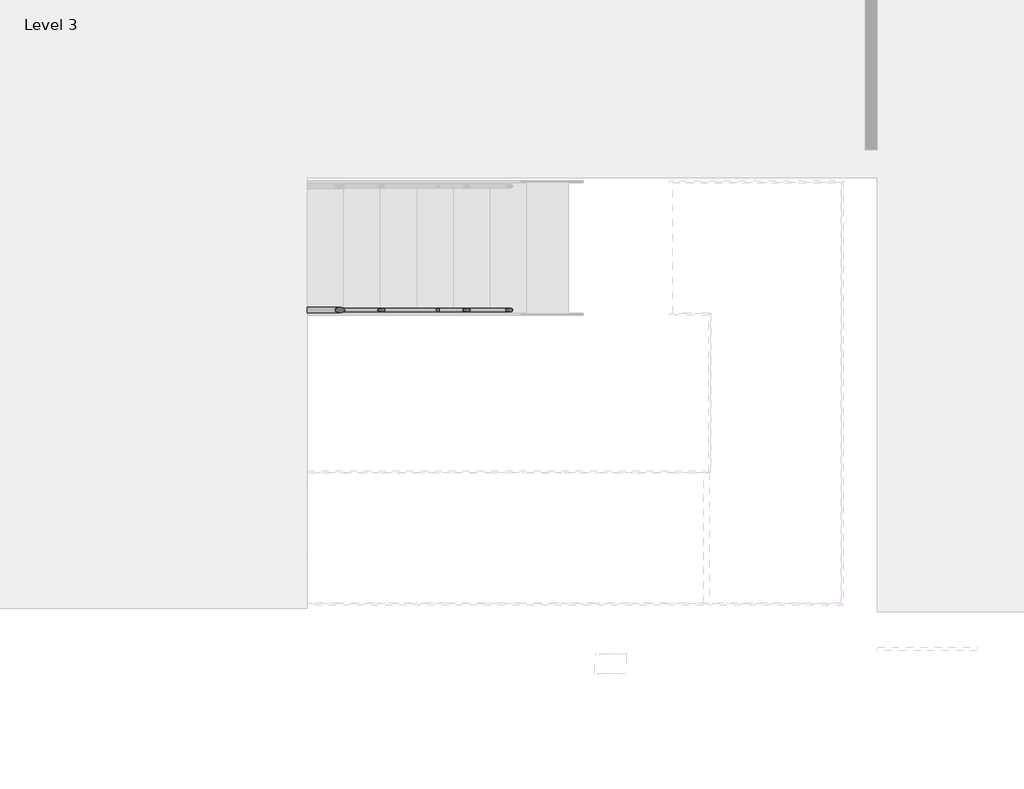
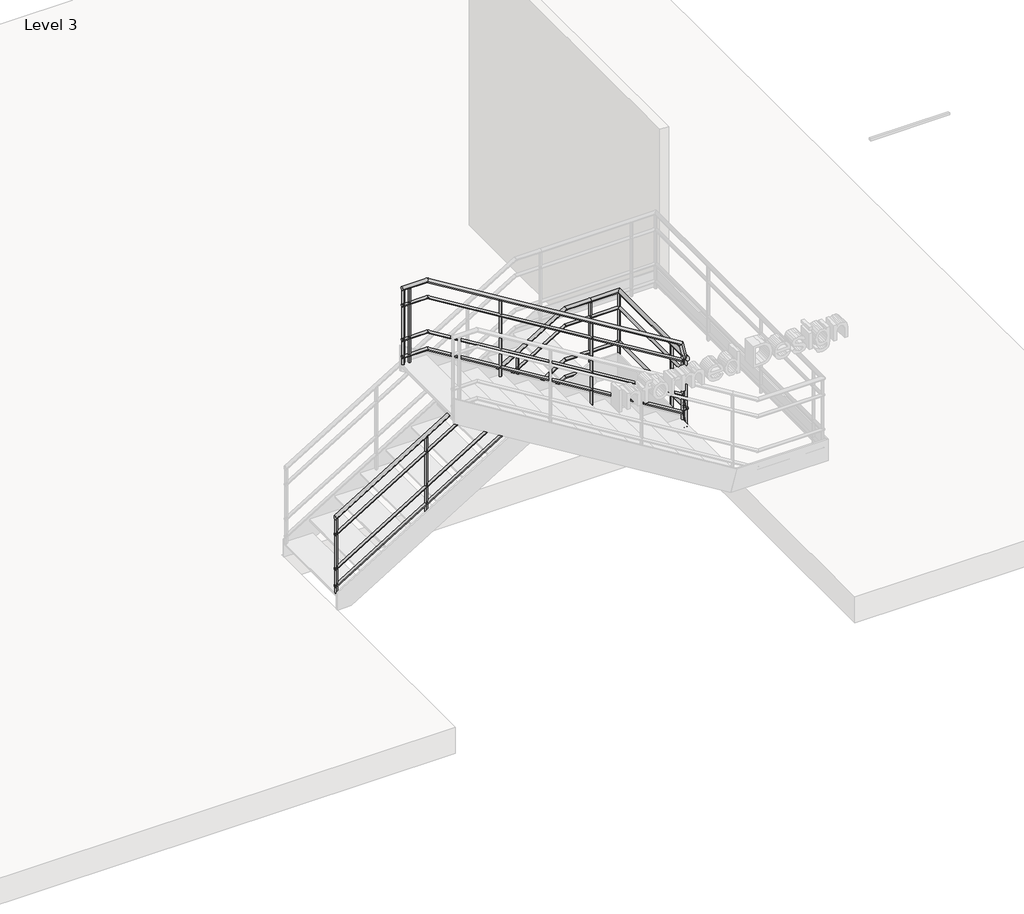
# One storey, part 5 of 7: 1 railing.
"""IFC4 building model written with IfcOpenShell, lengths in millimetres."""

from ifc_helpers import new_model, si_unit, point, frame, frame_2d, origin, place, context, project, spatial, circle_curve, ellipse_curve, trimmed, segment, composite_curve, outline, extrude, element, save
from ifc_brep_helpers import plane_surface, cylinder_surface, advanced_brep

model = new_model("IFC4")

# Units and contexts
model_context = context("Model", 3, world=origin())
ifc_project = project(units=[si_unit("LENGTHUNIT", "METRE", prefix="MILLI")], contexts=[model_context])

# Site, building, storey
site = spatial("IfcSite", under=ifc_project)
building = spatial("IfcBuilding", under=site)
storey = spatial("IfcBuildingStorey", under=building, Name="Level 3", Elevation=11000.0)

# Railing
placement = place(None, origin())
element("IfcRailing", 1, ObjectType="900mm_Pipe 2", at=placement, inside=storey, context=model_context, shape_type="SolidModel", body=[
    advanced_brep(
    [(35285.7942367, -992.7974508, 12047.9778246), (35285.7942367, -952.7974508, 12047.9778246), (37811.4304565, -992.7974508, 13594.2857143), (37811.4304565, -952.7974508, 13594.2857143), (38085.7942367, -992.7974508, 13594.2857143), (38085.7942367, -952.7974508, 13594.2857143), (38382.3511446, -992.7974508, 13594.2857143), (38422.3511446, -952.7974508, 13594.2857143), (38382.3511446, -2260.7943509, 13594.2857143), (38422.3511446, -2269.1367203, 13594.2857143)],
    [
        (0, 1, ellipse_curve(frame((35285.7942367, -972.7974508, 12047.9778246), z_axis=(-1.0, 0.0, 0.0), x_axis=(0.0, 0.0, -1.0)), 23.4507468, 20.0)),
        (1, 0, ellipse_curve(frame((35285.7942367, -972.7974508, 12047.9778246), z_axis=(-1.0, 0.0, 0.0), x_axis=(0.0, 0.0, -1.0)), 23.4507468, 20.0)),
        (0, 2),
        (2, 3, ellipse_curve(frame((37811.4304565, -972.7974508, 13594.2857143), z_axis=(-0.9625100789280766, 0.0, -0.27124591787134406), x_axis=(0.27124591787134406, 0.0, -0.9625100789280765)), 20.7790032, 20.0)),
        (3, 1),
        (3, 2, ellipse_curve(frame((37811.4304565, -972.7974508, 13594.2857143), z_axis=(-0.9625100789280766, 0.0, -0.27124591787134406), x_axis=(0.27124591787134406, 0.0, -0.9625100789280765)), 20.7790032, 20.0)),
        (2, 4),
        (4, 5, circle_curve(frame((38085.7942367, -972.7974508, 13594.2857143), z_axis=(-1.0, 0.0, 0.0), x_axis=(0.0, 1.0, 0.0)), 20.0)),
        (5, 3),
        (5, 4, circle_curve(frame((38085.7942367, -972.7974508, 13594.2857143), z_axis=(-1.0, 0.0, 0.0), x_axis=(0.0, 1.0, 0.0)), 20.0)),
        (4, 6),
        (6, 7, ellipse_curve(frame((38402.3511446, -972.7974508, 13594.2857143), z_axis=(-0.7071067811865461, 0.7071067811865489, 0.0), x_axis=(-0.7071067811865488, -0.7071067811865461, 0.0)), 28.2842712, 20.0)),
        (7, 5),
        (7, 6, ellipse_curve(frame((38402.3511446, -972.7974508, 13594.2857143), z_axis=(-0.7071067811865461, 0.7071067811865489, 0.0), x_axis=(-0.7071067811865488, -0.7071067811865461, 0.0)), 28.2842712, 20.0)),
        (8, 9, ellipse_curve(frame((38402.3511446, -2264.9655356, 13594.2857143), z_axis=(-0.14747365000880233, -0.7071067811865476, 0.6915573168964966), x_axis=(-0.14747365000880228, 0.7071067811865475, 0.6915573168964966)), 28.2842712, 20.0)),
        (9, 8, ellipse_curve(frame((38402.3511446, -2264.9655356, 13594.2857143), z_axis=(-0.14747365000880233, -0.7071067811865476, 0.6915573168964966), x_axis=(-0.14747365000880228, 0.7071067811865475, 0.6915573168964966)), 28.2842712, 20.0)),
        (6, 8),
        (9, 7),
    ],
    [
        plane_surface(frame((35285.7942367, -972.7974508, 12071.4285714), z_axis=(-1.0, 0.0, 0.0), x_axis=(0.0, 1.0, 0.0))),
        cylinder_surface(frame((35296.2373139, -972.7974508, 12054.3715453), z_axis=(-0.8528513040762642, 0.0, -0.5221538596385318), x_axis=(0.0, 1.0, 0.0)), 20.0),
        cylinder_surface(frame((37805.7942367, -972.7974508, 13594.2857143), z_axis=(-1.0, 0.0, 0.0), x_axis=(0.0, 1.0, 0.0)), 20.0),
        cylinder_surface(frame((38085.7942367, -972.7974508, 13594.2857143), z_axis=(-1.0, 0.0, 0.0), x_axis=(0.0, 1.0, 0.0)), 20.0),
        plane_surface(frame((38402.3511446, -2245.4053409, 13614.2857143), z_axis=(-0.14747365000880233, -0.7071067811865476, 0.6915573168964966), x_axis=(0.9890659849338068, -0.10543241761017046, 0.10311393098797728))),
        cylinder_surface(frame((38402.3511446, -972.7974508, 13594.2857143), z_axis=(0.0, 1.0, 0.0), x_axis=(1.0, 0.0, 0.0)), 20.0),
    ],
    [
        (0, [[1, 2]]),
        (1, [[-1, 3, 4, 5]]),
        (1, [[-2, -5, 6, -3]]),
        (2, [[-4, 7, 8, 9]]),
        (2, [[-6, -9, 10, -7]]),
        (3, [[-8, 11, 12, 13]]),
        (3, [[-10, -13, 14, -11]]),
        (4, [[15, 16]]),
        (5, [[-12, 17, -16, 18]]),
        (5, [[-14, -18, -15, -17]]),
    ],
),
    advanced_brep(
    [(38378.6197651, -2225.4053409, 13629.6747243), (38386.9621346, -2265.4053409, 13590.5543348), (38348.0254874, -2225.4053409, 13773.142365), (38348.0254874, -2265.4053409, 13773.142365), (35560.1580169, -2225.4053409, 15480.0), (35560.1580169, -2265.4053409, 15480.0), (35285.7942367, -2225.4053409, 15480.0), (35285.7942367, -2265.4053409, 15480.0)],
    [
        (0, 1, ellipse_curve(frame((38382.7909498, -2245.4053409, 13610.1145296), z_axis=(0.14747365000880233, 0.7071067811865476, -0.6915573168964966), x_axis=(0.1474736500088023, -0.7071067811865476, -0.6915573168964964)), 28.2842712, 20.0)),
        (1, 0, ellipse_curve(frame((38382.7909498, -2245.4053409, 13610.1145296), z_axis=(0.14747365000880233, 0.7071067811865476, -0.6915573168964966), x_axis=(0.1474736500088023, -0.7071067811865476, -0.6915573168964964)), 28.2842712, 20.0)),
        (0, 2),
        (2, 3, ellipse_curve(frame((38348.0254874, -2245.4053409, 13773.142365), z_axis=(0.5775804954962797, 0.0, -0.81633373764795), x_axis=(-0.8163337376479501, 0.0, -0.5775804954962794)), 21.7665257, 20.0)),
        (3, 1),
        (3, 2, ellipse_curve(frame((38348.0254874, -2245.4053409, 13773.142365), z_axis=(0.5775804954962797, 0.0, -0.81633373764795), x_axis=(-0.8163337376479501, 0.0, -0.5775804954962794)), 21.7665257, 20.0)),
        (2, 4),
        (4, 5, ellipse_curve(frame((35560.1580169, -2245.4053409, 15480.0), z_axis=(0.9625100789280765, 0.0, -0.27124591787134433), x_axis=(-0.2712459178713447, 0.0, -0.9625100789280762)), 20.7790032, 20.0)),
        (5, 3),
        (5, 4, ellipse_curve(frame((35560.1580169, -2245.4053409, 15480.0), z_axis=(0.9625100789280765, 0.0, -0.27124591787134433), x_axis=(-0.2712459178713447, 0.0, -0.9625100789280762)), 20.7790032, 20.0)),
        (6, 7, circle_curve(frame((35285.7942367, -2245.4053409, 15480.0), z_axis=(-1.0, 0.0, 0.0), x_axis=(0.0, -1.0, 0.0)), 20.0)),
        (7, 6, circle_curve(frame((35285.7942367, -2245.4053409, 15480.0), z_axis=(-1.0, 0.0, 0.0), x_axis=(0.0, -1.0, 0.0)), 20.0)),
        (4, 6),
        (7, 5),
    ],
    [
        plane_surface(frame((38402.3511446, -2245.4053409, 13614.2857143), z_axis=(0.14747365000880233, 0.7071067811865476, -0.6915573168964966), x_axis=(0.9890659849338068, -0.10543241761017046, 0.10311393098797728))),
        cylinder_surface(frame((38382.7909498, -2245.4053409, 13610.1145296), z_axis=(0.2085592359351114, 0.0, -0.9780097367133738), x_axis=(0.0, -1.0, 0.0)), 20.0),
        cylinder_surface(frame((38355.3511595, -2245.4053409, 13768.6572596), z_axis=(0.8528513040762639, 0.0, -0.5221538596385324), x_axis=(0.0, -1.0, 0.0)), 20.0),
        plane_surface(frame((35285.7942367, -2245.4053409, 15500.0), z_axis=(-1.0, 0.0, 0.0), x_axis=(0.0, -1.0, 0.0))),
        cylinder_surface(frame((35565.7942367, -2245.4053409, 15480.0), z_axis=(1.0, 0.0, 0.0), x_axis=(0.0, -1.0, 0.0)), 20.0),
    ],
    [
        (0, [[1, 2]]),
        (1, [[-1, 3, 4, 5]]),
        (1, [[-2, -5, 6, -3]]),
        (2, [[-4, 7, 8, 9]]),
        (2, [[-6, -9, 10, -7]]),
        (3, [[11, 12]]),
        (4, [[-8, 13, -12, 14]]),
        (4, [[-10, -14, -11, -13]]),
    ],
),
    advanced_brep(
    [(35285.7942367, -957.7974508, 11853.8405113), (35285.7942367, -987.7974508, 11853.8405113), (37810.0214015, -957.7974508, 13399.2857143), (37810.0214015, -987.7974508, 13399.2857143), (38085.7942367, -957.7974508, 13399.2857143), (38085.7942367, -987.7974508, 13399.2857143)],
    [
        (0, 1, ellipse_curve(frame((35285.7942367, -972.7974508, 11853.8405113), z_axis=(-1.0, 0.0, 0.0), x_axis=(0.0, 0.0, -1.0)), 17.5880601, 15.0)),
        (1, 0, ellipse_curve(frame((35285.7942367, -972.7974508, 11853.8405113), z_axis=(-1.0, 0.0, 0.0), x_axis=(0.0, 0.0, -1.0)), 17.5880601, 15.0)),
        (0, 2),
        (2, 3, ellipse_curve(frame((37810.0214015, -972.7974508, 13399.2857143), z_axis=(-0.9625100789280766, 0.0, -0.27124591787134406), x_axis=(0.27124591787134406, 0.0, -0.9625100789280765)), 15.5842524, 15.0)),
        (3, 1),
        (3, 2, ellipse_curve(frame((37810.0214015, -972.7974508, 13399.2857143), z_axis=(-0.9625100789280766, 0.0, -0.27124591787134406), x_axis=(0.27124591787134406, 0.0, -0.9625100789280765)), 15.5842524, 15.0)),
        (4, 5, circle_curve(frame((38085.7942367, -972.7974508, 13399.2857143), z_axis=(1.0, 0.0, 0.0), x_axis=(0.0, -1.0, 0.0)), 15.0)),
        (5, 4, circle_curve(frame((38085.7942367, -972.7974508, 13399.2857143), z_axis=(1.0, 0.0, 0.0), x_axis=(0.0, -1.0, 0.0)), 15.0)),
        (2, 4),
        (5, 3),
    ],
    [
        plane_surface(frame((35285.7942367, -972.7974508, 11871.4285714), z_axis=(-1.0, 0.0, 0.0), x_axis=(0.0, 1.0, 0.0))),
        cylinder_surface(frame((35293.6265446, -972.7974508, 11858.6358019), z_axis=(-0.8528513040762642, 0.0, -0.5221538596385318), x_axis=(0.0, -1.0, 0.0)), 15.0),
        plane_surface(frame((38085.7942367, -972.7974508, 13414.2857143), z_axis=(1.0, 0.0, 0.0), x_axis=(0.0, 1.0, 0.0))),
        cylinder_surface(frame((37805.7942367, -972.7974508, 13399.2857143), z_axis=(-1.0, 0.0, 0.0), x_axis=(0.0, -1.0, 0.0)), 15.0),
    ],
    [
        (0, [[1, 2]]),
        (1, [[-1, 3, 4, 5]]),
        (1, [[-2, -5, 6, -3]]),
        (2, [[7, 8]]),
        (3, [[-4, 9, -8, 10]]),
        (3, [[-6, -10, -7, -9]]),
    ],
),
    advanced_brep(
    [(38085.7942367, -957.7974508, 13399.2857143), (38085.7942367, -987.7974508, 13399.2857143), (38387.3511446, -957.7974508, 13399.2857143), (38387.3511446, -987.7974508, 13399.2857143)],
    [
        (0, 1, circle_curve(frame((38085.7942367, -972.7974508, 13399.2857143), z_axis=(-1.0, 0.0, 0.0), x_axis=(0.0, -1.0, 0.0)), 15.0)),
        (1, 0, circle_curve(frame((38085.7942367, -972.7974508, 13399.2857143), z_axis=(-1.0, 0.0, 0.0), x_axis=(0.0, -1.0, 0.0)), 15.0)),
        (2, 3, circle_curve(frame((38387.3511446, -972.7974508, 13399.2857143), z_axis=(1.0, 0.0, 0.0), x_axis=(0.0, -1.0, 0.0)), 15.0)),
        (3, 2, circle_curve(frame((38387.3511446, -972.7974508, 13399.2857143), z_axis=(1.0, 0.0, 0.0), x_axis=(0.0, -1.0, 0.0)), 15.0)),
        (0, 2),
        (3, 1),
    ],
    [
        plane_surface(frame((38085.7942367, -972.7974508, 13414.2857143), z_axis=(-1.0, 0.0, 0.0), x_axis=(0.0, 1.0, 0.0))),
        plane_surface(frame((38387.3511446, -972.7974508, 13414.2857143), z_axis=(1.0, 0.0, 0.0), x_axis=(0.0, 1.0, 0.0))),
        cylinder_surface(frame((38085.7942367, -972.7974508, 13399.2857143), z_axis=(-1.0, 0.0, 0.0), x_axis=(0.0, -1.0, 0.0)), 15.0),
    ],
    [
        (0, [[1, 2]]),
        (1, [[3, 4]]),
        (2, [[-1, 5, -4, 6]]),
        (2, [[-2, -6, -3, -5]]),
    ],
),
    advanced_brep(
    [(38417.3511446, -957.7974508, 13399.2857143), (38387.3511446, -957.7974508, 13399.2857143), (38417.3511446, -2230.4053409, 13399.2857143), (38387.3511446, -2230.4053409, 13399.2857143)],
    [
        (0, 1, circle_curve(frame((38402.3511446, -957.7974508, 13399.2857143), z_axis=(0.0, 1.0, 0.0), x_axis=(-1.0, 0.0, 0.0)), 15.0)),
        (1, 0, circle_curve(frame((38402.3511446, -957.7974508, 13399.2857143), z_axis=(0.0, 1.0, 0.0), x_axis=(-1.0, 0.0, 0.0)), 15.0)),
        (2, 3, circle_curve(frame((38402.3511446, -2230.4053409, 13399.2857143), z_axis=(0.0, -1.0, 0.0), x_axis=(-1.0, 0.0, 0.0)), 15.0)),
        (3, 2, circle_curve(frame((38402.3511446, -2230.4053409, 13399.2857143), z_axis=(0.0, -1.0, 0.0), x_axis=(-1.0, 0.0, 0.0)), 15.0)),
        (0, 2),
        (3, 1),
    ],
    [
        plane_surface(frame((38402.3511446, -957.7974508, 13414.2857143), z_axis=(0.0, 1.0, 0.0), x_axis=(0.0, 0.0, -1.0))),
        plane_surface(frame((38402.3511446, -2230.4053409, 13414.2857143), z_axis=(0.0, -1.0, 0.0), x_axis=(0.0, 0.0, -1.0))),
        cylinder_surface(frame((38402.3511446, -957.7974508, 13399.2857143), z_axis=(0.0, 1.0, 0.0), x_axis=(-1.0, 0.0, 0.0)), 15.0),
    ],
    [
        (0, [[1, 2]]),
        (1, [[3, 4]]),
        (2, [[-1, 5, -4, 6]]),
        (2, [[-2, -6, -3, -5]]),
    ],
),
    advanced_brep(
    [(38417.3511446, -2260.4053409, 13399.2857143), (38417.3511446, -2230.4053409, 13399.2857143), (38390.2126034, -2260.4053409, 13399.2857143), (38390.2126034, -2230.4053409, 13399.2857143), (38365.7942367, -2260.4053409, 13513.7922731), (38365.7942367, -2230.4053409, 13513.7922731)],
    [
        (0, 1, circle_curve(frame((38417.3511446, -2245.4053409, 13399.2857143), z_axis=(1.0, 0.0, 0.0), x_axis=(0.0, 1.0, 0.0)), 15.0)),
        (1, 0, circle_curve(frame((38417.3511446, -2245.4053409, 13399.2857143), z_axis=(1.0, 0.0, 0.0), x_axis=(0.0, 1.0, 0.0)), 15.0)),
        (0, 2),
        (2, 3, ellipse_curve(frame((38390.2126034, -2245.4053409, 13399.2857143), z_axis=(0.7773542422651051, 0.0, -0.6290630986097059), x_axis=(0.6290630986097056, 0.0, 0.7773542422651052)), 19.296222, 15.0)),
        (3, 1),
        (3, 2, ellipse_curve(frame((38390.2126034, -2245.4053409, 13399.2857143), z_axis=(0.7773542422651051, 0.0, -0.6290630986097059), x_axis=(0.6290630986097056, 0.0, 0.7773542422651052)), 19.296222, 15.0)),
        (4, 5, ellipse_curve(frame((38365.7942367, -2245.4053409, 13513.7922731), z_axis=(-1.0, 0.0, 0.0), x_axis=(0.0, 0.0, -1.0)), 71.9220126, 15.0)),
        (5, 4, ellipse_curve(frame((38365.7942367, -2245.4053409, 13513.7922731), z_axis=(-1.0, 0.0, 0.0), x_axis=(0.0, 0.0, -1.0)), 71.9220126, 15.0)),
        (2, 4),
        (5, 3),
    ],
    [
        plane_surface(frame((38417.3511446, -2245.4053409, 13414.2857143), z_axis=(1.0, 0.0, 0.0), x_axis=(0.0, -1.0, 0.0))),
        cylinder_surface(frame((38417.3511446, -2245.4053409, 13399.2857143), z_axis=(1.0, 0.0, 0.0), x_axis=(0.0, 1.0, 0.0)), 15.0),
        plane_surface(frame((38365.7942367, -2245.4053409, 13585.7142857), z_axis=(-1.0, 0.0, 0.0), x_axis=(0.0, -1.0, 0.0))),
        cylinder_surface(frame((38387.6809985, -2245.4053409, 13411.1573257), z_axis=(0.20855923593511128, 0.0, -0.9780097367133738), x_axis=(0.0, 1.0, 0.0)), 15.0),
    ],
    [
        (0, [[1, 2]]),
        (1, [[-1, 3, 4, 5]]),
        (1, [[-2, -5, 6, -3]]),
        (2, [[7, 8]]),
        (3, [[-4, 9, -8, 10]]),
        (3, [[-6, -10, -7, -9]]),
    ],
),
    advanced_brep(
    [(38365.7942367, -2260.4053409, 13568.1262256), (38365.7942367, -2230.4053409, 13568.1262256), (35561.5670718, -2260.4053409, 15285.0), (35561.5670718, -2230.4053409, 15285.0), (35285.7942367, -2260.4053409, 15285.0), (35285.7942367, -2230.4053409, 15285.0)],
    [
        (0, 1, ellipse_curve(frame((38365.7942367, -2245.4053409, 13568.1262256), z_axis=(1.0, 0.0, 0.0), x_axis=(0.0, 0.0, -1.0)), 17.5880601, 15.0)),
        (1, 0, ellipse_curve(frame((38365.7942367, -2245.4053409, 13568.1262256), z_axis=(1.0, 0.0, 0.0), x_axis=(0.0, 0.0, -1.0)), 17.5880601, 15.0)),
        (0, 2),
        (2, 3, ellipse_curve(frame((35561.5670718, -2245.4053409, 15285.0), z_axis=(0.9625100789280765, 0.0, -0.2712459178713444), x_axis=(-0.2712459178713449, 0.0, -0.9625100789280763)), 15.5842524, 15.0)),
        (3, 1),
        (3, 2, ellipse_curve(frame((35561.5670718, -2245.4053409, 15285.0), z_axis=(0.9625100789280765, 0.0, -0.2712459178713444), x_axis=(-0.2712459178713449, 0.0, -0.9625100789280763)), 15.5842524, 15.0)),
        (4, 5, circle_curve(frame((35285.7942367, -2245.4053409, 15285.0), z_axis=(-1.0, 0.0, 0.0), x_axis=(0.0, 1.0, 0.0)), 15.0)),
        (5, 4, circle_curve(frame((35285.7942367, -2245.4053409, 15285.0), z_axis=(-1.0, 0.0, 0.0), x_axis=(0.0, 1.0, 0.0)), 15.0)),
        (2, 4),
        (5, 3),
    ],
    [
        plane_surface(frame((38365.7942367, -2245.4053409, 13585.7142857), z_axis=(1.0, 0.0, 0.0), x_axis=(0.0, -1.0, 0.0))),
        cylinder_surface(frame((38357.9619288, -2245.4053409, 13572.9215162), z_axis=(0.8528513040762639, 0.0, -0.5221538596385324), x_axis=(0.0, 1.0, 0.0)), 15.0),
        plane_surface(frame((35285.7942367, -2245.4053409, 15300.0), z_axis=(-1.0, 0.0, 0.0), x_axis=(0.0, -1.0, 0.0))),
        cylinder_surface(frame((35565.7942367, -2245.4053409, 15285.0), z_axis=(1.0, 0.0, 0.0), x_axis=(0.0, 1.0, 0.0)), 15.0),
    ],
    [
        (0, [[1, 2]]),
        (1, [[-1, 3, 4, 5]]),
        (1, [[-2, -5, 6, -3]]),
        (2, [[7, 8]]),
        (3, [[-4, 9, -8, 10]]),
        (3, [[-6, -10, -7, -9]]),
    ],
),
    advanced_brep(
    [(35285.7942367, -957.7974508, 11453.8405113), (35285.7942367, -987.7974508, 11453.8405113), (37810.0214015, -957.7974508, 12999.2857143), (37810.0214015, -987.7974508, 12999.2857143), (38085.7942367, -957.7974508, 12999.2857143), (38085.7942367, -987.7974508, 12999.2857143)],
    [
        (0, 1, ellipse_curve(frame((35285.7942367, -972.7974508, 11453.8405113), z_axis=(-1.0, 0.0, 0.0), x_axis=(0.0, 0.0, -1.0)), 17.5880601, 15.0)),
        (1, 0, ellipse_curve(frame((35285.7942367, -972.7974508, 11453.8405113), z_axis=(-1.0, 0.0, 0.0), x_axis=(0.0, 0.0, -1.0)), 17.5880601, 15.0)),
        (0, 2),
        (2, 3, ellipse_curve(frame((37810.0214015, -972.7974508, 12999.2857143), z_axis=(-0.9625100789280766, 0.0, -0.27124591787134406), x_axis=(0.27124591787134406, 0.0, -0.9625100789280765)), 15.5842524, 15.0)),
        (3, 1),
        (3, 2, ellipse_curve(frame((37810.0214015, -972.7974508, 12999.2857143), z_axis=(-0.9625100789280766, 0.0, -0.27124591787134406), x_axis=(0.27124591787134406, 0.0, -0.9625100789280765)), 15.5842524, 15.0)),
        (4, 5, circle_curve(frame((38085.7942367, -972.7974508, 12999.2857143), z_axis=(1.0, 0.0, 0.0), x_axis=(0.0, -1.0, 0.0)), 15.0)),
        (5, 4, circle_curve(frame((38085.7942367, -972.7974508, 12999.2857143), z_axis=(1.0, 0.0, 0.0), x_axis=(0.0, -1.0, 0.0)), 15.0)),
        (2, 4),
        (5, 3),
    ],
    [
        plane_surface(frame((35285.7942367, -972.7974508, 11471.4285714), z_axis=(-1.0, 0.0, 0.0), x_axis=(0.0, 1.0, 0.0))),
        cylinder_surface(frame((35293.6265446, -972.7974508, 11458.6358019), z_axis=(-0.8528513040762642, 0.0, -0.5221538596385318), x_axis=(0.0, -1.0, 0.0)), 15.0),
        plane_surface(frame((38085.7942367, -972.7974508, 13014.2857143), z_axis=(1.0, 0.0, 0.0), x_axis=(0.0, 1.0, 0.0))),
        cylinder_surface(frame((37805.7942367, -972.7974508, 12999.2857143), z_axis=(-1.0, 0.0, 0.0), x_axis=(0.0, -1.0, 0.0)), 15.0),
    ],
    [
        (0, [[1, 2]]),
        (1, [[-1, 3, 4, 5]]),
        (1, [[-2, -5, 6, -3]]),
        (2, [[7, 8]]),
        (3, [[-4, 9, -8, 10]]),
        (3, [[-6, -10, -7, -9]]),
    ],
),
    advanced_brep(
    [(38085.7942367, -957.7974508, 12999.2857143), (38085.7942367, -987.7974508, 12999.2857143), (38387.3511446, -957.7974508, 12999.2857143), (38387.3511446, -987.7974508, 12999.2857143)],
    [
        (0, 1, circle_curve(frame((38085.7942367, -972.7974508, 12999.2857143), z_axis=(-1.0, 0.0, 0.0), x_axis=(0.0, -1.0, 0.0)), 15.0)),
        (1, 0, circle_curve(frame((38085.7942367, -972.7974508, 12999.2857143), z_axis=(-1.0, 0.0, 0.0), x_axis=(0.0, -1.0, 0.0)), 15.0)),
        (2, 3, circle_curve(frame((38387.3511446, -972.7974508, 12999.2857143), z_axis=(1.0, 0.0, 0.0), x_axis=(0.0, -1.0, 0.0)), 15.0)),
        (3, 2, circle_curve(frame((38387.3511446, -972.7974508, 12999.2857143), z_axis=(1.0, 0.0, 0.0), x_axis=(0.0, -1.0, 0.0)), 15.0)),
        (0, 2),
        (3, 1),
    ],
    [
        plane_surface(frame((38085.7942367, -972.7974508, 13014.2857143), z_axis=(-1.0, 0.0, 0.0), x_axis=(0.0, 1.0, 0.0))),
        plane_surface(frame((38387.3511446, -972.7974508, 13014.2857143), z_axis=(1.0, 0.0, 0.0), x_axis=(0.0, 1.0, 0.0))),
        cylinder_surface(frame((38085.7942367, -972.7974508, 12999.2857143), z_axis=(-1.0, 0.0, 0.0), x_axis=(0.0, -1.0, 0.0)), 15.0),
    ],
    [
        (0, [[1, 2]]),
        (1, [[3, 4]]),
        (2, [[-1, 5, -4, 6]]),
        (2, [[-2, -6, -3, -5]]),
    ],
),
    advanced_brep(
    [(38417.3511446, -957.7974508, 12999.2857143), (38387.3511446, -957.7974508, 12999.2857143), (38417.3511446, -2230.4053409, 12999.2857143), (38387.3511446, -2230.4053409, 12999.2857143)],
    [
        (0, 1, circle_curve(frame((38402.3511446, -957.7974508, 12999.2857143), z_axis=(0.0, 1.0, 0.0), x_axis=(-1.0, 0.0, 0.0)), 15.0)),
        (1, 0, circle_curve(frame((38402.3511446, -957.7974508, 12999.2857143), z_axis=(0.0, 1.0, 0.0), x_axis=(-1.0, 0.0, 0.0)), 15.0)),
        (2, 3, circle_curve(frame((38402.3511446, -2230.4053409, 12999.2857143), z_axis=(0.0, -1.0, 0.0), x_axis=(-1.0, 0.0, 0.0)), 15.0)),
        (3, 2, circle_curve(frame((38402.3511446, -2230.4053409, 12999.2857143), z_axis=(0.0, -1.0, 0.0), x_axis=(-1.0, 0.0, 0.0)), 15.0)),
        (0, 2),
        (3, 1),
    ],
    [
        plane_surface(frame((38402.3511446, -957.7974508, 13014.2857143), z_axis=(0.0, 1.0, 0.0), x_axis=(0.0, 0.0, -1.0))),
        plane_surface(frame((38402.3511446, -2230.4053409, 13014.2857143), z_axis=(0.0, -1.0, 0.0), x_axis=(0.0, 0.0, -1.0))),
        cylinder_surface(frame((38402.3511446, -957.7974508, 12999.2857143), z_axis=(0.0, 1.0, 0.0), x_axis=(-1.0, 0.0, 0.0)), 15.0),
    ],
    [
        (0, [[1, 2]]),
        (1, [[3, 4]]),
        (2, [[-1, 5, -4, 6]]),
        (2, [[-2, -6, -3, -5]]),
    ],
),
    advanced_brep(
    [(38417.3511446, -2260.4053409, 12999.2857143), (38417.3511446, -2230.4053409, 12999.2857143), (38390.2126034, -2260.4053409, 12999.2857143), (38390.2126034, -2230.4053409, 12999.2857143), (38365.7942367, -2260.4053409, 13113.7922731), (38365.7942367, -2230.4053409, 13113.7922731)],
    [
        (0, 1, circle_curve(frame((38417.3511446, -2245.4053409, 12999.2857143), z_axis=(1.0, 0.0, 0.0), x_axis=(0.0, 1.0, 0.0)), 15.0)),
        (1, 0, circle_curve(frame((38417.3511446, -2245.4053409, 12999.2857143), z_axis=(1.0, 0.0, 0.0), x_axis=(0.0, 1.0, 0.0)), 15.0)),
        (0, 2),
        (2, 3, ellipse_curve(frame((38390.2126034, -2245.4053409, 12999.2857143), z_axis=(0.7773542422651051, 0.0, -0.6290630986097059), x_axis=(0.6290630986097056, 0.0, 0.7773542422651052)), 19.296222, 15.0)),
        (3, 1),
        (3, 2, ellipse_curve(frame((38390.2126034, -2245.4053409, 12999.2857143), z_axis=(0.7773542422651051, 0.0, -0.6290630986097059), x_axis=(0.6290630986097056, 0.0, 0.7773542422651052)), 19.296222, 15.0)),
        (4, 5, ellipse_curve(frame((38365.7942367, -2245.4053409, 13113.7922731), z_axis=(-1.0, 0.0, 0.0), x_axis=(0.0, 0.0, -1.0)), 71.9220126, 15.0)),
        (5, 4, ellipse_curve(frame((38365.7942367, -2245.4053409, 13113.7922731), z_axis=(-1.0, 0.0, 0.0), x_axis=(0.0, 0.0, -1.0)), 71.9220126, 15.0)),
        (2, 4),
        (5, 3),
    ],
    [
        plane_surface(frame((38417.3511446, -2245.4053409, 13014.2857143), z_axis=(1.0, 0.0, 0.0), x_axis=(0.0, -1.0, 0.0))),
        cylinder_surface(frame((38417.3511446, -2245.4053409, 12999.2857143), z_axis=(1.0, 0.0, 0.0), x_axis=(0.0, 1.0, 0.0)), 15.0),
        plane_surface(frame((38365.7942367, -2245.4053409, 13185.7142857), z_axis=(-1.0, 0.0, 0.0), x_axis=(0.0, -1.0, 0.0))),
        cylinder_surface(frame((38387.6809985, -2245.4053409, 13011.1573257), z_axis=(0.20855923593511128, 0.0, -0.9780097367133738), x_axis=(0.0, 1.0, 0.0)), 15.0),
    ],
    [
        (0, [[1, 2]]),
        (1, [[-1, 3, 4, 5]]),
        (1, [[-2, -5, 6, -3]]),
        (2, [[7, 8]]),
        (3, [[-4, 9, -8, 10]]),
        (3, [[-6, -10, -7, -9]]),
    ],
),
    advanced_brep(
    [(38365.7942367, -2260.4053409, 13168.1262256), (38365.7942367, -2230.4053409, 13168.1262256), (35561.5670718, -2260.4053409, 14885.0), (35561.5670718, -2230.4053409, 14885.0), (35285.7942367, -2260.4053409, 14885.0), (35285.7942367, -2230.4053409, 14885.0)],
    [
        (0, 1, ellipse_curve(frame((38365.7942367, -2245.4053409, 13168.1262256), z_axis=(1.0, 0.0, 0.0), x_axis=(0.0, 0.0, -1.0)), 17.5880601, 15.0)),
        (1, 0, ellipse_curve(frame((38365.7942367, -2245.4053409, 13168.1262256), z_axis=(1.0, 0.0, 0.0), x_axis=(0.0, 0.0, -1.0)), 17.5880601, 15.0)),
        (0, 2),
        (2, 3, ellipse_curve(frame((35561.5670718, -2245.4053409, 14885.0), z_axis=(0.9625100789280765, 0.0, -0.2712459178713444), x_axis=(-0.2712459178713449, 0.0, -0.9625100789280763)), 15.5842524, 15.0)),
        (3, 1),
        (3, 2, ellipse_curve(frame((35561.5670718, -2245.4053409, 14885.0), z_axis=(0.9625100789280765, 0.0, -0.2712459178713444), x_axis=(-0.2712459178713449, 0.0, -0.9625100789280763)), 15.5842524, 15.0)),
        (4, 5, circle_curve(frame((35285.7942367, -2245.4053409, 14885.0), z_axis=(-1.0, 0.0, 0.0), x_axis=(0.0, 1.0, 0.0)), 15.0)),
        (5, 4, circle_curve(frame((35285.7942367, -2245.4053409, 14885.0), z_axis=(-1.0, 0.0, 0.0), x_axis=(0.0, 1.0, 0.0)), 15.0)),
        (2, 4),
        (5, 3),
    ],
    [
        plane_surface(frame((38365.7942367, -2245.4053409, 13185.7142857), z_axis=(1.0, 0.0, 0.0), x_axis=(0.0, -1.0, 0.0))),
        cylinder_surface(frame((38357.9619288, -2245.4053409, 13172.9215162), z_axis=(0.8528513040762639, 0.0, -0.5221538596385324), x_axis=(0.0, 1.0, 0.0)), 15.0),
        plane_surface(frame((35285.7942367, -2245.4053409, 14900.0), z_axis=(-1.0, 0.0, 0.0), x_axis=(0.0, -1.0, 0.0))),
        cylinder_surface(frame((35565.7942367, -2245.4053409, 14885.0), z_axis=(1.0, 0.0, 0.0), x_axis=(0.0, 1.0, 0.0)), 15.0),
    ],
    [
        (0, [[1, 2]]),
        (1, [[-1, 3, 4, 5]]),
        (1, [[-2, -5, 6, -3]]),
        (2, [[7, 8]]),
        (3, [[-4, 9, -8, 10]]),
        (3, [[-6, -10, -7, -9]]),
    ],
),
    advanced_brep(
    [(35285.7942367, -957.7974508, 11253.8405113), (35285.7942367, -987.7974508, 11253.8405113), (37810.0214015, -957.7974508, 12799.2857143), (37810.0214015, -987.7974508, 12799.2857143), (38085.7942367, -957.7974508, 12799.2857143), (38085.7942367, -987.7974508, 12799.2857143)],
    [
        (0, 1, ellipse_curve(frame((35285.7942367, -972.7974508, 11253.8405113), z_axis=(-1.0, 0.0, 0.0), x_axis=(0.0, 0.0, -1.0)), 17.5880601, 15.0)),
        (1, 0, ellipse_curve(frame((35285.7942367, -972.7974508, 11253.8405113), z_axis=(-1.0, 0.0, 0.0), x_axis=(0.0, 0.0, -1.0)), 17.5880601, 15.0)),
        (0, 2),
        (2, 3, ellipse_curve(frame((37810.0214015, -972.7974508, 12799.2857143), z_axis=(-0.9625100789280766, 0.0, -0.27124591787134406), x_axis=(0.27124591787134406, 0.0, -0.9625100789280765)), 15.5842524, 15.0)),
        (3, 1),
        (3, 2, ellipse_curve(frame((37810.0214015, -972.7974508, 12799.2857143), z_axis=(-0.9625100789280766, 0.0, -0.27124591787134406), x_axis=(0.27124591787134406, 0.0, -0.9625100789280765)), 15.5842524, 15.0)),
        (4, 5, circle_curve(frame((38085.7942367, -972.7974508, 12799.2857143), z_axis=(1.0, 0.0, 0.0), x_axis=(0.0, -1.0, 0.0)), 15.0)),
        (5, 4, circle_curve(frame((38085.7942367, -972.7974508, 12799.2857143), z_axis=(1.0, 0.0, 0.0), x_axis=(0.0, -1.0, 0.0)), 15.0)),
        (2, 4),
        (5, 3),
    ],
    [
        plane_surface(frame((35285.7942367, -972.7974508, 11271.4285714), z_axis=(-1.0, 0.0, 0.0), x_axis=(0.0, 1.0, 0.0))),
        cylinder_surface(frame((35293.6265446, -972.7974508, 11258.6358019), z_axis=(-0.8528513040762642, 0.0, -0.5221538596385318), x_axis=(0.0, -1.0, 0.0)), 15.0),
        plane_surface(frame((38085.7942367, -972.7974508, 12814.2857143), z_axis=(1.0, 0.0, 0.0), x_axis=(0.0, 1.0, 0.0))),
        cylinder_surface(frame((37805.7942367, -972.7974508, 12799.2857143), z_axis=(-1.0, 0.0, 0.0), x_axis=(0.0, -1.0, 0.0)), 15.0),
    ],
    [
        (0, [[1, 2]]),
        (1, [[-1, 3, 4, 5]]),
        (1, [[-2, -5, 6, -3]]),
        (2, [[7, 8]]),
        (3, [[-4, 9, -8, 10]]),
        (3, [[-6, -10, -7, -9]]),
    ],
),
    advanced_brep(
    [(38085.7942367, -957.7974508, 12799.2857143), (38085.7942367, -987.7974508, 12799.2857143), (38387.3511446, -957.7974508, 12799.2857143), (38387.3511446, -987.7974508, 12799.2857143)],
    [
        (0, 1, circle_curve(frame((38085.7942367, -972.7974508, 12799.2857143), z_axis=(-1.0, 0.0, 0.0), x_axis=(0.0, -1.0, 0.0)), 15.0)),
        (1, 0, circle_curve(frame((38085.7942367, -972.7974508, 12799.2857143), z_axis=(-1.0, 0.0, 0.0), x_axis=(0.0, -1.0, 0.0)), 15.0)),
        (2, 3, circle_curve(frame((38387.3511446, -972.7974508, 12799.2857143), z_axis=(1.0, 0.0, 0.0), x_axis=(0.0, -1.0, 0.0)), 15.0)),
        (3, 2, circle_curve(frame((38387.3511446, -972.7974508, 12799.2857143), z_axis=(1.0, 0.0, 0.0), x_axis=(0.0, -1.0, 0.0)), 15.0)),
        (0, 2),
        (3, 1),
    ],
    [
        plane_surface(frame((38085.7942367, -972.7974508, 12814.2857143), z_axis=(-1.0, 0.0, 0.0), x_axis=(0.0, 1.0, 0.0))),
        plane_surface(frame((38387.3511446, -972.7974508, 12814.2857143), z_axis=(1.0, 0.0, 0.0), x_axis=(0.0, 1.0, 0.0))),
        cylinder_surface(frame((38085.7942367, -972.7974508, 12799.2857143), z_axis=(-1.0, 0.0, 0.0), x_axis=(0.0, -1.0, 0.0)), 15.0),
    ],
    [
        (0, [[1, 2]]),
        (1, [[3, 4]]),
        (2, [[-1, 5, -4, 6]]),
        (2, [[-2, -6, -3, -5]]),
    ],
),
    advanced_brep(
    [(38417.3511446, -957.7974508, 12799.2857143), (38387.3511446, -957.7974508, 12799.2857143), (38417.3511446, -2230.4053409, 12799.2857143), (38387.3511446, -2230.4053409, 12799.2857143)],
    [
        (0, 1, circle_curve(frame((38402.3511446, -957.7974508, 12799.2857143), z_axis=(0.0, 1.0, 0.0), x_axis=(-1.0, 0.0, 0.0)), 15.0)),
        (1, 0, circle_curve(frame((38402.3511446, -957.7974508, 12799.2857143), z_axis=(0.0, 1.0, 0.0), x_axis=(-1.0, 0.0, 0.0)), 15.0)),
        (2, 3, circle_curve(frame((38402.3511446, -2230.4053409, 12799.2857143), z_axis=(0.0, -1.0, 0.0), x_axis=(-1.0, 0.0, 0.0)), 15.0)),
        (3, 2, circle_curve(frame((38402.3511446, -2230.4053409, 12799.2857143), z_axis=(0.0, -1.0, 0.0), x_axis=(-1.0, 0.0, 0.0)), 15.0)),
        (0, 2),
        (3, 1),
    ],
    [
        plane_surface(frame((38402.3511446, -957.7974508, 12814.2857143), z_axis=(0.0, 1.0, 0.0), x_axis=(0.0, 0.0, -1.0))),
        plane_surface(frame((38402.3511446, -2230.4053409, 12814.2857143), z_axis=(0.0, -1.0, 0.0), x_axis=(0.0, 0.0, -1.0))),
        cylinder_surface(frame((38402.3511446, -957.7974508, 12799.2857143), z_axis=(0.0, 1.0, 0.0), x_axis=(-1.0, 0.0, 0.0)), 15.0),
    ],
    [
        (0, [[1, 2]]),
        (1, [[3, 4]]),
        (2, [[-1, 5, -4, 6]]),
        (2, [[-2, -6, -3, -5]]),
    ],
),
    advanced_brep(
    [(38417.3511446, -2260.4053409, 12799.2857143), (38417.3511446, -2230.4053409, 12799.2857143), (38390.2126034, -2260.4053409, 12799.2857143), (38390.2126034, -2230.4053409, 12799.2857143), (38365.7942367, -2260.4053409, 12913.7922731), (38365.7942367, -2230.4053409, 12913.7922731)],
    [
        (0, 1, circle_curve(frame((38417.3511446, -2245.4053409, 12799.2857143), z_axis=(1.0, 0.0, 0.0), x_axis=(0.0, 1.0, 0.0)), 15.0)),
        (1, 0, circle_curve(frame((38417.3511446, -2245.4053409, 12799.2857143), z_axis=(1.0, 0.0, 0.0), x_axis=(0.0, 1.0, 0.0)), 15.0)),
        (0, 2),
        (2, 3, ellipse_curve(frame((38390.2126034, -2245.4053409, 12799.2857143), z_axis=(0.7773542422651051, 0.0, -0.6290630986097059), x_axis=(0.6290630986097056, 0.0, 0.7773542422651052)), 19.296222, 15.0)),
        (3, 1),
        (3, 2, ellipse_curve(frame((38390.2126034, -2245.4053409, 12799.2857143), z_axis=(0.7773542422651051, 0.0, -0.6290630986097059), x_axis=(0.6290630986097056, 0.0, 0.7773542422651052)), 19.296222, 15.0)),
        (4, 5, ellipse_curve(frame((38365.7942367, -2245.4053409, 12913.7922731), z_axis=(-1.0, 0.0, 0.0), x_axis=(0.0, 0.0, -1.0)), 71.9220126, 15.0)),
        (5, 4, ellipse_curve(frame((38365.7942367, -2245.4053409, 12913.7922731), z_axis=(-1.0, 0.0, 0.0), x_axis=(0.0, 0.0, -1.0)), 71.9220126, 15.0)),
        (2, 4),
        (5, 3),
    ],
    [
        plane_surface(frame((38417.3511446, -2245.4053409, 12814.2857143), z_axis=(1.0, 0.0, 0.0), x_axis=(0.0, -1.0, 0.0))),
        cylinder_surface(frame((38417.3511446, -2245.4053409, 12799.2857143), z_axis=(1.0, 0.0, 0.0), x_axis=(0.0, 1.0, 0.0)), 15.0),
        plane_surface(frame((38365.7942367, -2245.4053409, 12985.7142857), z_axis=(-1.0, 0.0, 0.0), x_axis=(0.0, -1.0, 0.0))),
        cylinder_surface(frame((38387.6809985, -2245.4053409, 12811.1573257), z_axis=(0.20855923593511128, 0.0, -0.9780097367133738), x_axis=(0.0, 1.0, 0.0)), 15.0),
    ],
    [
        (0, [[1, 2]]),
        (1, [[-1, 3, 4, 5]]),
        (1, [[-2, -5, 6, -3]]),
        (2, [[7, 8]]),
        (3, [[-4, 9, -8, 10]]),
        (3, [[-6, -10, -7, -9]]),
    ],
),
    advanced_brep(
    [(38365.7942367, -2260.4053409, 12968.1262256), (38365.7942367, -2230.4053409, 12968.1262256), (35561.5670718, -2260.4053409, 14685.0), (35561.5670718, -2230.4053409, 14685.0), (35285.7942367, -2260.4053409, 14685.0), (35285.7942367, -2230.4053409, 14685.0)],
    [
        (0, 1, ellipse_curve(frame((38365.7942367, -2245.4053409, 12968.1262256), z_axis=(1.0, 0.0, 0.0), x_axis=(0.0, 0.0, -1.0)), 17.5880601, 15.0)),
        (1, 0, ellipse_curve(frame((38365.7942367, -2245.4053409, 12968.1262256), z_axis=(1.0, 0.0, 0.0), x_axis=(0.0, 0.0, -1.0)), 17.5880601, 15.0)),
        (0, 2),
        (2, 3, ellipse_curve(frame((35561.5670718, -2245.4053409, 14685.0), z_axis=(0.9625100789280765, 0.0, -0.2712459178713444), x_axis=(-0.2712459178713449, 0.0, -0.9625100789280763)), 15.5842524, 15.0)),
        (3, 1),
        (3, 2, ellipse_curve(frame((35561.5670718, -2245.4053409, 14685.0), z_axis=(0.9625100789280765, 0.0, -0.2712459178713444), x_axis=(-0.2712459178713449, 0.0, -0.9625100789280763)), 15.5842524, 15.0)),
        (4, 5, circle_curve(frame((35285.7942367, -2245.4053409, 14685.0), z_axis=(-1.0, 0.0, 0.0), x_axis=(0.0, 1.0, 0.0)), 15.0)),
        (5, 4, circle_curve(frame((35285.7942367, -2245.4053409, 14685.0), z_axis=(-1.0, 0.0, 0.0), x_axis=(0.0, 1.0, 0.0)), 15.0)),
        (2, 4),
        (5, 3),
    ],
    [
        plane_surface(frame((38365.7942367, -2245.4053409, 12985.7142857), z_axis=(1.0, 0.0, 0.0), x_axis=(0.0, -1.0, 0.0))),
        cylinder_surface(frame((38357.9619288, -2245.4053409, 12972.9215162), z_axis=(0.8528513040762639, 0.0, -0.5221538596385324), x_axis=(0.0, 1.0, 0.0)), 15.0),
        plane_surface(frame((35285.7942367, -2245.4053409, 14700.0), z_axis=(-1.0, 0.0, 0.0), x_axis=(0.0, -1.0, 0.0))),
        cylinder_surface(frame((35565.7942367, -2245.4053409, 14685.0), z_axis=(1.0, 0.0, 0.0), x_axis=(0.0, 1.0, 0.0)), 15.0),
    ],
    [
        (0, [[1, 2]]),
        (1, [[-1, 3, 4, 5]]),
        (1, [[-2, -5, 6, -3]]),
        (2, [[7, 8]]),
        (3, [[-4, 9, -8, 10]]),
        (3, [[-6, -10, -7, -9]]),
    ],
),
    extrude(outline(composite_curve([segment(trimmed(circle_curve(frame_2d((35365.7942367, -2245.4053409)), 12.5), [point((35365.7942367, -2257.9053409))], [point((35365.7942367, -2232.9053409))], False, "CARTESIAN"), True, "CONTINUOUS"), segment(trimmed(circle_curve(frame_2d((35365.7942367, -2245.4053409)), 12.5), [point((35365.7942367, -2232.9053409))], [point((35365.7942367, -2257.9053409))], False, "CARTESIAN"), True, "CONTINUOUS")], self_intersect=False)), frame((0.0, 0.0, 14600.0), z_axis=(0.0, 0.0, 1.0), x_axis=(1.0, 0.0, 0.0)), (0.0, 0.0, 1.0), 860.0),
    advanced_brep(
    [(36365.7942367, -2232.9053409, 14963.302588), (36365.7942367, -2232.9053409, 14085.7142857), (36365.7942367, -2257.9053409, 14085.7142857), (36365.7942367, -2257.9053409, 14963.302588)],
    [
        (0, 1),
        (1, 2, circle_curve(frame((36365.7942367, -2245.4053409, 14085.7142857), z_axis=(0.0, 0.0, 1.0), x_axis=(0.0, -1.0, 0.0)), 12.5)),
        (2, 3),
        (3, 0, ellipse_curve(frame((36365.7942367, -2245.4053409, 14963.302588), z_axis=(-0.5221538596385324, 0.0, -0.8528513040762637), x_axis=(-0.8528513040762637, 0.0, 0.5221538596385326)), 14.6567168, 12.5)),
        (0, 3, ellipse_curve(frame((36365.7942367, -2245.4053409, 14963.302588), z_axis=(-0.5221538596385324, 0.0, -0.8528513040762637), x_axis=(-0.8528513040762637, 0.0, 0.5221538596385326)), 14.6567168, 12.5)),
        (2, 1, circle_curve(frame((36365.7942367, -2245.4053409, 14085.7142857), z_axis=(0.0, 0.0, 1.0), x_axis=(0.0, -1.0, 0.0)), 12.5)),
    ],
    [
        cylinder_surface(frame((36365.7942367, -2245.4053409, 13985.7142857), z_axis=(0.0, 0.0, 1.0), x_axis=(0.0, -1.0, 0.0)), 12.5),
        plane_surface(frame((36340.7942367, -2270.4053409, 14978.6087105), z_axis=(0.5221538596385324, 0.0, 0.8528513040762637), x_axis=(0.0, 1.0, 0.0))),
        plane_surface(frame((36390.7942367, -2270.4053409, 14085.7142857), z_axis=(0.0, 0.0, -1.0), x_axis=(0.0, 1.0, 0.0))),
    ],
    [
        (0, [[1, 2, 3, 4]]),
        (0, [[-1, 5, -3, 6]]),
        (1, [[-4, -5]]),
        (2, [[-2, -6]]),
    ],
),
    advanced_brep(
    [(37365.7942367, -2232.9053409, 14351.05769), (37365.7942367, -2232.9053409, 13400.0), (37365.7942367, -2257.9053409, 13400.0), (37365.7942367, -2257.9053409, 14351.05769)],
    [
        (0, 1),
        (1, 2, circle_curve(frame((37365.7942367, -2245.4053409, 13400.0), z_axis=(0.0, 0.0, 1.0), x_axis=(0.0, -1.0, 0.0)), 12.5)),
        (2, 3),
        (3, 0, ellipse_curve(frame((37365.7942367, -2245.4053409, 14351.05769), z_axis=(-0.5221538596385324, 0.0, -0.8528513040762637), x_axis=(-0.8528513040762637, 0.0, 0.5221538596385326)), 14.6567168, 12.5)),
        (0, 3, ellipse_curve(frame((37365.7942367, -2245.4053409, 14351.05769), z_axis=(-0.5221538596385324, 0.0, -0.8528513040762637), x_axis=(-0.8528513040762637, 0.0, 0.5221538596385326)), 14.6567168, 12.5)),
        (2, 1, circle_curve(frame((37365.7942367, -2245.4053409, 13400.0), z_axis=(0.0, 0.0, 1.0), x_axis=(0.0, -1.0, 0.0)), 12.5)),
    ],
    [
        cylinder_surface(frame((37365.7942367, -2245.4053409, 13300.0), z_axis=(0.0, 0.0, 1.0), x_axis=(0.0, -1.0, 0.0)), 12.5),
        plane_surface(frame((37340.7942367, -2270.4053409, 14366.3638125), z_axis=(0.5221538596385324, 0.0, 0.8528513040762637), x_axis=(0.0, 1.0, 0.0))),
        plane_surface(frame((37390.7942367, -2270.4053409, 13400.0), z_axis=(0.0, 0.0, -1.0), x_axis=(0.0, 1.0, 0.0))),
    ],
    [
        (0, [[1, 2, 3, 4]]),
        (0, [[-1, 5, -3, 6]]),
        (1, [[-4, -5]]),
        (2, [[-2, -6]]),
    ],
),
    extrude(outline(composite_curve([segment(trimmed(circle_curve(frame_2d((38402.3511446, -1972.7974508)), 12.5), [point((38414.8511446, -1972.7974508))], [point((38389.8511446, -1972.7974508))], False, "CARTESIAN"), True, "CONTINUOUS"), segment(trimmed(circle_curve(frame_2d((38402.3511446, -1972.7974508)), 12.5), [point((38389.8511446, -1972.7974508))], [point((38414.8511446, -1972.7974508))], False, "CARTESIAN"), True, "CONTINUOUS")], self_intersect=False)), frame((0.0, 0.0, 12714.2857143), z_axis=(0.0, 0.0, 1.0), x_axis=(1.0, 0.0, 0.0)), (0.0, 0.0, 1.0), 860.0),
    advanced_brep(
    [(37285.7942367, -985.2974508, 13249.0168737), (37285.7942367, -985.2974508, 12371.4285714), (37285.7942367, -960.2974508, 12371.4285714), (37285.7942367, -960.2974508, 13249.0168737)],
    [
        (0, 1),
        (1, 2, circle_curve(frame((37285.7942367, -972.7974508, 12371.4285714), z_axis=(0.0, 0.0, 1.0), x_axis=(0.0, 1.0, 0.0)), 12.5)),
        (2, 3),
        (3, 0, ellipse_curve(frame((37285.7942367, -972.7974508, 13249.0168737), z_axis=(0.5221538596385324, 0.0, -0.8528513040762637), x_axis=(0.8528513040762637, 0.0, 0.5221538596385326)), 14.6567168, 12.5)),
        (0, 3, ellipse_curve(frame((37285.7942367, -972.7974508, 13249.0168737), z_axis=(0.5221538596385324, 0.0, -0.8528513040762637), x_axis=(0.8528513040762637, 0.0, 0.5221538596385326)), 14.6567168, 12.5)),
        (2, 1, circle_curve(frame((37285.7942367, -972.7974508, 12371.4285714), z_axis=(0.0, 0.0, 1.0), x_axis=(0.0, 1.0, 0.0)), 12.5)),
    ],
    [
        cylinder_surface(frame((37285.7942367, -972.7974508, 12271.4285714), z_axis=(0.0, 0.0, 1.0), x_axis=(0.0, 1.0, 0.0)), 12.5),
        plane_surface(frame((37310.7942367, -947.7974508, 13264.3229962), z_axis=(-0.5221538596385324, 0.0, 0.8528513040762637), x_axis=(0.0, -1.0, 0.0))),
        plane_surface(frame((37260.7942367, -947.7974508, 12371.4285714), z_axis=(0.0, 0.0, -1.0), x_axis=(0.0, -1.0, 0.0))),
    ],
    [
        (0, [[1, 2, 3, 4]]),
        (0, [[-1, 5, -3, 6]]),
        (1, [[-4, -5]]),
        (2, [[-2, -6]]),
    ],
),
    advanced_brep(
    [(36285.7942367, -985.2974508, 12636.7719758), (36285.7942367, -985.2974508, 11685.7142857), (36285.7942367, -960.2974508, 11685.7142857), (36285.7942367, -960.2974508, 12636.7719758)],
    [
        (0, 1),
        (1, 2, circle_curve(frame((36285.7942367, -972.7974508, 11685.7142857), z_axis=(0.0, 0.0, 1.0), x_axis=(0.0, 1.0, 0.0)), 12.5)),
        (2, 3),
        (3, 0, ellipse_curve(frame((36285.7942367, -972.7974508, 12636.7719758), z_axis=(0.5221538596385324, 0.0, -0.8528513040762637), x_axis=(0.8528513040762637, 0.0, 0.5221538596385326)), 14.6567168, 12.5)),
        (0, 3, ellipse_curve(frame((36285.7942367, -972.7974508, 12636.7719758), z_axis=(0.5221538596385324, 0.0, -0.8528513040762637), x_axis=(0.8528513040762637, 0.0, 0.5221538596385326)), 14.6567168, 12.5)),
        (2, 1, circle_curve(frame((36285.7942367, -972.7974508, 11685.7142857), z_axis=(0.0, 0.0, 1.0), x_axis=(0.0, 1.0, 0.0)), 12.5)),
    ],
    [
        cylinder_surface(frame((36285.7942367, -972.7974508, 11585.7142857), z_axis=(0.0, 0.0, 1.0), x_axis=(0.0, 1.0, 0.0)), 12.5),
        plane_surface(frame((36310.7942367, -947.7974508, 12652.0780982), z_axis=(-0.5221538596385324, 0.0, 0.8528513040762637), x_axis=(0.0, -1.0, 0.0))),
        plane_surface(frame((36260.7942367, -947.7974508, 11685.7142857), z_axis=(0.0, 0.0, -1.0), x_axis=(0.0, -1.0, 0.0))),
    ],
    [
        (0, [[1, 2, 3, 4]]),
        (0, [[-1, 5, -3, 6]]),
        (1, [[-4, -5]]),
        (2, [[-2, -6]]),
    ],
),
    extrude(outline(composite_curve([segment(trimmed(circle_curve(frame_2d((38365.7942367, -2245.4053409)), 12.5), [point((38365.7942367, -2232.9053409))], [point((38365.7942367, -2257.9053409))], False, "CARTESIAN"), True, "CONTINUOUS"), segment(trimmed(circle_curve(frame_2d((38365.7942367, -2245.4053409)), 12.5), [point((38365.7942367, -2257.9053409))], [point((38365.7942367, -2232.9053409))], False, "CARTESIAN"), True, "CONTINUOUS")], self_intersect=False)), frame((0.0, 0.0, 12614.2857143), z_axis=(0.0, 0.0, 1.0), x_axis=(1.0, 0.0, 0.0)), (0.0, 0.0, 1.0), 1079.6365378),
    extrude(outline(composite_curve([segment(trimmed(circle_curve(frame_2d((38402.3511446, -2245.4053409)), 12.5), [point((38414.8511446, -2245.4053409))], [point((38389.8511446, -2245.4053409))], False, "CARTESIAN"), True, "CONTINUOUS"), segment(trimmed(circle_curve(frame_2d((38402.3511446, -2245.4053409)), 12.5), [point((38389.8511446, -2245.4053409))], [point((38414.8511446, -2245.4053409))], False, "CARTESIAN"), True, "CONTINUOUS")], self_intersect=False)), frame((0.0, 0.0, 12714.2857143), z_axis=(0.0, 0.0, 1.0), x_axis=(1.0, 0.0, 0.0)), (0.0, 0.0, 1.0), 860.0),
    extrude(outline(composite_curve([segment(trimmed(circle_curve(frame_2d((38402.3511446, -972.7974508)), 12.5), [point((38402.3511446, -960.2974508))], [point((38402.3511446, -985.2974508))], False, "CARTESIAN"), True, "CONTINUOUS"), segment(trimmed(circle_curve(frame_2d((38402.3511446, -972.7974508)), 12.5), [point((38402.3511446, -985.2974508))], [point((38402.3511446, -960.2974508))], False, "CARTESIAN"), True, "CONTINUOUS")], self_intersect=False)), frame((0.0, 0.0, 12714.2857143), z_axis=(0.0, 0.0, 1.0), x_axis=(1.0, 0.0, 0.0)), (0.0, 0.0, 1.0), 860.0),
    extrude(outline(composite_curve([segment(trimmed(circle_curve(frame_2d((38085.7942367, -972.7974508)), 12.5), [point((38085.7942367, -960.2974508))], [point((38085.7942367, -985.2974508))], False, "CARTESIAN"), True, "CONTINUOUS"), segment(trimmed(circle_curve(frame_2d((38085.7942367, -972.7974508)), 12.5), [point((38085.7942367, -985.2974508))], [point((38085.7942367, -960.2974508))], False, "CARTESIAN"), True, "CONTINUOUS")], self_intersect=False)), frame((0.0, 0.0, 12714.2857143), z_axis=(0.0, 0.0, 1.0), x_axis=(1.0, 0.0, 0.0)), (0.0, 0.0, 1.0), 860.0),
    extrude(outline(composite_curve([segment(trimmed(circle_curve(frame_2d((35298.2942367, -2245.4053409)), 12.5), [point((35298.2942367, -2257.9053409))], [point((35298.2942367, -2232.9053409))], False, "CARTESIAN"), True, "CONTINUOUS"), segment(trimmed(circle_curve(frame_2d((35298.2942367, -2245.4053409)), 12.5), [point((35298.2942367, -2232.9053409))], [point((35298.2942367, -2257.9053409))], False, "CARTESIAN"), True, "CONTINUOUS")], self_intersect=False)), frame((0.0, 0.0, 14600.0), z_axis=(0.0, 0.0, 1.0), x_axis=(1.0, 0.0, 0.0)), (0.0, 0.0, 1.0), 860.0),
    advanced_brep(
    [(35298.2942367, -985.2974508, 12032.180139), (35298.2942367, -985.2974508, 11171.4285714), (35298.2942367, -960.2974508, 11171.4285714), (35298.2942367, -960.2974508, 12032.180139)],
    [
        (0, 1),
        (1, 2, circle_curve(frame((35298.2942367, -972.7974508, 11171.4285714), z_axis=(0.0, 0.0, 1.0), x_axis=(0.0, 1.0, 0.0)), 12.5)),
        (2, 3),
        (3, 0, ellipse_curve(frame((35298.2942367, -972.7974508, 12032.180139), z_axis=(0.5221538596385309, 0.0, -0.8528513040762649), x_axis=(0.8528513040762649, 0.0, 0.5221538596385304)), 14.6567168, 12.5)),
        (0, 3, ellipse_curve(frame((35298.2942367, -972.7974508, 12032.180139), z_axis=(0.5221538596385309, 0.0, -0.8528513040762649), x_axis=(0.8528513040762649, 0.0, 0.5221538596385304)), 14.6567168, 12.5)),
        (2, 1, circle_curve(frame((35298.2942367, -972.7974508, 11171.4285714), z_axis=(0.0, 0.0, 1.0), x_axis=(0.0, 1.0, 0.0)), 12.5)),
    ],
    [
        cylinder_surface(frame((35298.2942367, -972.7974508, 11071.4285714), z_axis=(0.0, 0.0, 1.0), x_axis=(0.0, 1.0, 0.0)), 12.5),
        plane_surface(frame((35323.2942367, -947.7974508, 12047.4862615), z_axis=(-0.5221538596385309, 0.0, 0.8528513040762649), x_axis=(0.0, -1.0, 0.0))),
        plane_surface(frame((35273.2942367, -947.7974508, 11171.4285714), z_axis=(0.0, 0.0, -1.0), x_axis=(0.0, -1.0, 0.0))),
    ],
    [
        (0, [[1, 2, 3, 4]]),
        (0, [[-1, 5, -3, 6]]),
        (1, [[-4, -5]]),
        (2, [[-2, -6]]),
    ],
),
])

save(model, "model.ifc")
